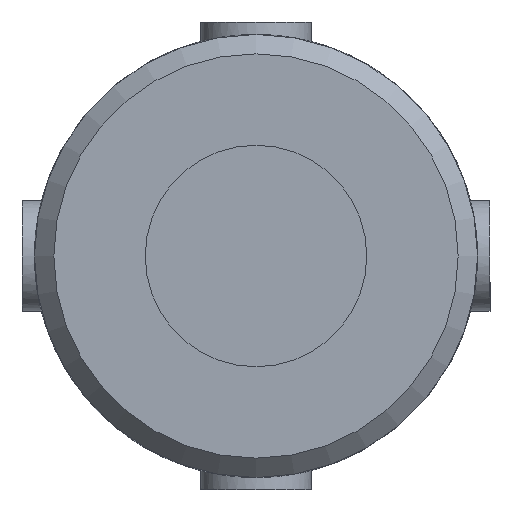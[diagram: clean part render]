
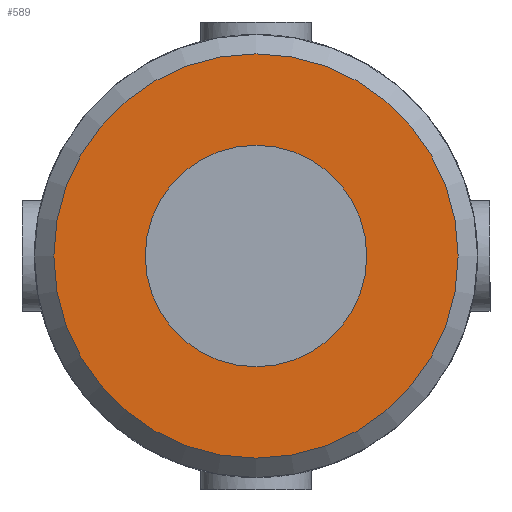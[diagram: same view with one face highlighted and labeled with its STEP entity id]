
A CAD part, front view. The second image highlights one B-rep face of the part: STEP entity #589.
In plain terms, the highlighted planar face has unit normal (0, -1, 0).
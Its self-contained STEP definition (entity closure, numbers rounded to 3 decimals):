
#121=PLANE('',#644);
#145=FACE_BOUND('',#221,.T.);
#168=FACE_OUTER_BOUND('',#220,.T.);
#220=EDGE_LOOP('',(#468));
#221=EDGE_LOOP('',(#469));
#257=CIRCLE('',#639,4.);
#259=CIRCLE('',#642,7.3);
#292=VERTEX_POINT('',#908);
#294=VERTEX_POINT('',#913);
#354=EDGE_CURVE('',#292,#292,#257,.T.);
#356=EDGE_CURVE('',#294,#294,#259,.T.);
#468=ORIENTED_EDGE('',*,*,#356,.F.);
#469=ORIENTED_EDGE('',*,*,#354,.T.);
#589=ADVANCED_FACE('',(#168,#145),#121,.F.);
#639=AXIS2_PLACEMENT_3D('',#909,#749,#750);
#642=AXIS2_PLACEMENT_3D('',#914,#755,#756);
#644=AXIS2_PLACEMENT_3D('',#1082,#763,#764);
#749=DIRECTION('center_axis',(0.,1.,0.));
#750=DIRECTION('ref_axis',(-1.,0.,0.));
#755=DIRECTION('center_axis',(0.,1.,0.));
#756=DIRECTION('ref_axis',(1.,0.,0.));
#763=DIRECTION('center_axis',(0.,1.,0.));
#764=DIRECTION('ref_axis',(0.,0.,1.));
#908=CARTESIAN_POINT('',(4.,-24.,0.));
#909=CARTESIAN_POINT('Origin',(0.,-24.,0.));
#913=CARTESIAN_POINT('',(-7.3,-24.,0.));
#914=CARTESIAN_POINT('Origin',(0.,-24.,0.));
#1082=CARTESIAN_POINT('Origin',(0.,-24.,0.));
